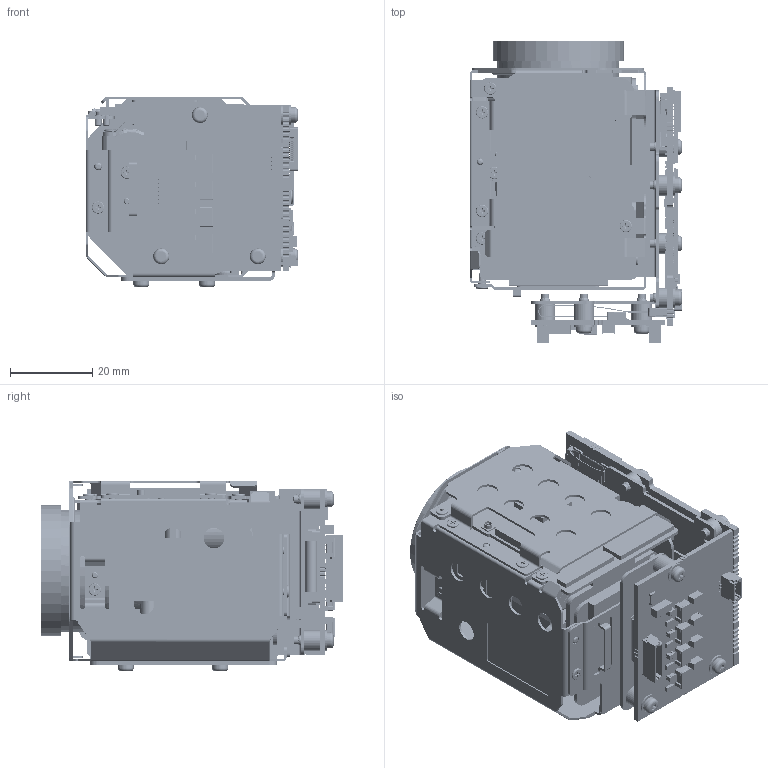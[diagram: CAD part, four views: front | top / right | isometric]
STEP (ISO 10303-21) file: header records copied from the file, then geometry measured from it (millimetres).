
FILE_DESCRIPTION( ( 'Unknown' ), '1' );
FILE_NAME( 'Q:/2003/Product3DCADModels/STEP-test/mm-ap29c01-0124-0101.stp', 'Unknown', ( 'Unknown' ), ( 'Unknown' ), 'PSStep 17.0.49', 'Unknown', ' ' );
FILE_SCHEMA( ( 'AUTOMOTIVE_DESIGN { 1 0 10303 214 1 1 1 1 }' ) );
Length unit declared in the file: millimetre
Products named in the file (638): CL0205A-702_4_ASM_ASM_1_ASM_ASM; _CL0205A-702_4_1; CL0205A-706_5_ASM_ASM_1_ASM_ASM; _CL0205A-706_5_1; Lead-7; Open_CASCADE_STEP_translator_6.8_1.2.1; 1004_ASM_1_ASM_ASM_1_ASM_ASM; BREP_WITH_VOIDS_287126_1; MANIFOLD_SOLID_BREP_287488_1; MANIFOLD_SOLID_BREP_287526_1; MANIFOLD_SOLID_BREP_293139_1; MANIFOLD_SOLID_BREP_294337_1; _1004_ASM_1_1; MANIFOLD_SOLID_BREP_282864_1; 1009_ASM_1_ASM_ASM_1_ASM_ASM; BREP_WITH_VOIDS_318368_1; MANIFOLD_SOLID_BREP_323969_2; MANIFOLD_SOLID_BREP_333745_2; MANIFOLD_SOLID_BREP_333783_1; MANIFOLD_SOLID_BREP_335141_1; _1009_ASM_1_2; Lead-4; Lead-2; Lead-1; Lead; CL0205A-501_ASM_8_ASM_ASM_1_ASM_ASM; CL0205A-501_5_2; CL0205A-301_1_2A; Lead-6; Lead-3; CL0205A-503_ASM_11_ASM_ASM_1_AS_ASM; CL0205A-503_13_1; Lead-5; Mid_Body; Open_CASCADE_STEP_translator_6.8_3.2.1; FRAME_RUG0010A; Open CASCADE STEP translator 6.8 4.8.1.1.1; Open CASCADE STEP translator 6.8 4.8.1.1.2; Open CASCADE STEP translator 6.8 4.8.1.1.3; Open CASCADE STEP translator 6.8 4.8.1.1.4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
Assembly tree (1533 placements, depth 7):
  Assem1
    bracket-0387-0101
    G-977-016Z  x7
    G-875-322T  x3
    G-221-096H  x4
    G-080-752R  x4
    G-582-670X  x3
    G-806-048H  x3
    flexi-03
    AS-CAM-10LHD-A-01
      ST17353001_1_1  x15
      AS-10LHD_ASS_Y_ASM_ASM
        AS-10A_ASM_ASM_1_ASM_ASM
          AS-10A_BOTTOM_CHASS-1_7
          AS-10A_TOP_CHASS-1_7
          AS-10A_MAIN_PCB_2
          AS-10A_CONTROL_PCB_7
          FRONT_SHEET_2
          CL0205A_ASM_256_ASM_ASM_1_ASM_ASM
            CL0205A-505_21_1
            CL0205A-506_23_1
            CL0201A-705_1_1  x2
            ST17353001_1_1  x5
            ST14302501_1_1  x2
            ST17653001_1_1  x3
            ST17453001_1_1  x3
            ST14503601_2_1  x4
            CL0201A-706_1_1
            CL0205A-501_ASM_8_ASM_ASM_1_ASM_ASM
              CL0205A-501_5_2
              CL0205A-301_1_2A
            CL0205A-503_ASM_11_ASM_ASM_1_AS_ASM
              CL0205A-503_13_1
            CL0205A-702_4_ASM_ASM_1_ASM_ASM
              _CL0205A-702_4_1
              _CL0205A-702_4_1
              _CL0205A-702_4_1
              _CL0205A-702_4_1
              _CL0205A-702_4_1
              _CL0205A-702_4_1
              _CL0205A-702_4_1
              _CL0205A-702_4_1
              _CL0205A-702_4_1
              _CL0205A-702_4_1
            CL0205A-706_5_ASM_ASM_1_ASM_ASM
              _CL0205A-706_5_1
              _CL0205A-706_5_1
              _CL0205A-706_5_1
              _CL0205A-706_5_1
              _CL0205A-706_5_1
              _CL0205A-706_5_1
              _CL0205A-706_5_1
              _CL0205A-706_5_1
              _CL0205A-706_5_1
              _CL0205A-706_5_1
              _CL0205A-706_5_1
              _CL0205A-706_5_1
              _CL0205A-706_5_1
              _CL0205A-706_5_1
              _CL0205A-706_5_1
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Bounding box: 51.74 x 73.52 x 46.44 mm (x, y, z)
Volume: 35196 mm3; surface area: 96334.8 mm2
Topology: 1123 solids, 3335 shells, 26032 faces, 75499 edges, 54070 vertices
Faces by surface type: plane 20642, cylinder 4206, torus 407, bspline 261, cone 232, sphere 176, revolution 60, extrusion 48
Full cylindrical faces by diameter (mm): 0.018 x4, 0.041 x1, 0.15 x1, 0.2 x2, 0.25 x4, 0.254 x2, 0.3 x1, 0.35 x8, 0.5 x9, 0.519 x1, 0.65 x6, 0.7 x3, 1 x11, 1.05 x4, 1.1 x3, 1.12 x2, 1.2 x3, 1.35 x15, 1.4 x6, 1.5 x11, 1.567 x7, 1.6 x30, 1.7 x33, 1.8 x9, 1.85 x1, 1.9 x2, 1.96 x6, 2 x24, 2.1 x5, 2.2 x40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
Entity records: 700631 total; most frequent: CARTESIAN_POINT 149760, ORIENTED_EDGE 82668, DIRECTION 79396, EDGE_CURVE 47661, VERTEX_POINT 36072, VECTOR 33360, LINE 33344, AXIS2_PLACEMENT_3D 23009
